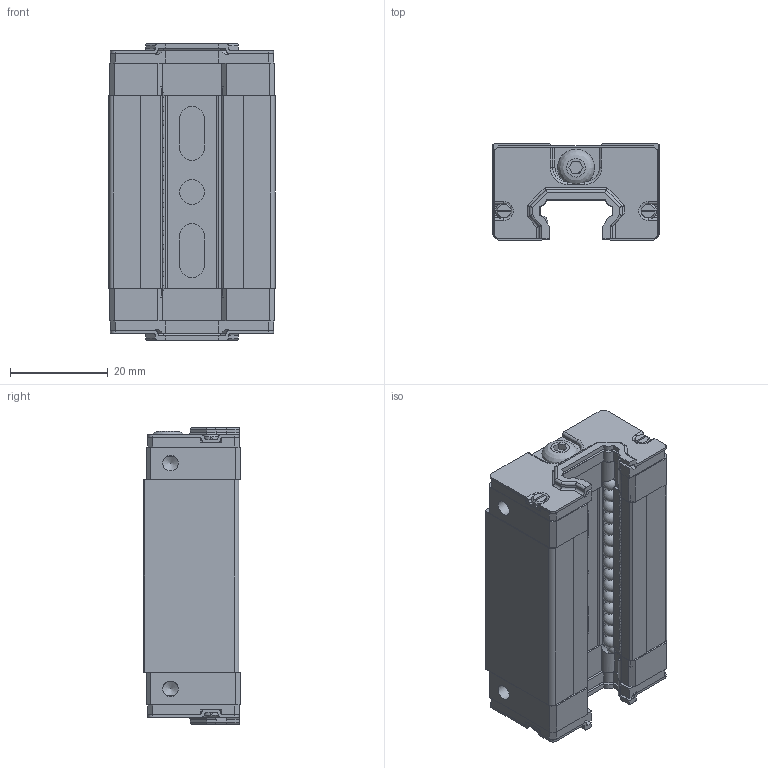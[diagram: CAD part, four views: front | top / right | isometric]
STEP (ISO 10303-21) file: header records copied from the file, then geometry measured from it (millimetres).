
FILE_DESCRIPTION(/* description */ (''),/* implementation_level */ '2;1');
FILE_NAME(/* name */ 'C:\Users\daviddillkoetter\ownCloud\Kamp und Kötter\Artikel\_CAD-Dateien\ZCF-Profilfuehrung\CE\Export\KPFW-15U-BL.stp',/* time_stamp */ '2021-03-22T15:33:22+01:00',/* author */ ('daviddillkoetter'),/* organization */ (''),/* preprocessor_version */ 'ST-DEVELOPER v18.1',/* originating_system */ 'Autodesk Inventor 2021',/* authorisation */ '');
FILE_SCHEMA (('AUTOMOTIVE_DESIGN { 1 0 10303 214 3 1 1 }'));
Length unit declared in the file: millimetre
Products named in the file (15): CE15H-CA; CE15_HGrundkoeprerWagen; CE15_Kunststoffkugelsicherung; CE15_KunstoffKugelfuehrungoben; CE15_Teflonumlenker; CE15_Kunststoffkappe; CE15_Schmutzabstreifer; Screw GB 823 M2,5 x 10; DIN 920 - M2,5 x 10; ISO 7380-1 - M4 x 6; CE15-Kugelkette; CE15-Kugelkette_MIR; CE15-Kugelkette_MIR1; CE15-Kugelkette_MIR_MIR; CE15_Metallabdeckung
Assembly tree (25 placements, depth 2):
  CE15H-CA
    CE15_HGrundkoeprerWagen
    CE15_Kunststoffkugelsicherung  x2
    CE15_KunstoffKugelfuehrungoben
    CE15_Teflonumlenker  x2
    CE15_Kunststoffkappe  x2
    CE15_Schmutzabstreifer  x2
    DIN 920 - M2,5 x 10  x4
    Screw GB 823 M2,5 x 10  x4
    ISO 7380-1 - M4 x 6
    CE15-Kugelkette
    CE15-Kugelkette_MIR
    CE15-Kugelkette_MIR1
    CE15-Kugelkette_MIR_MIR
    CE15_Metallabdeckung  x2
Bounding box: 34 x 19.8 x 60.79 mm (x, y, z)
Volume: 27935.7 mm3; surface area: 27974.5 mm2
Topology: 157 solids, 157 shells, 1533 faces, 4132 edges, 2684 vertices
Faces by surface type: plane 832, cylinder 387, sphere 140, cone 106, torus 67, bspline 1
Full cylindrical faces by diameter (mm): 0.845 x4, 2.013 x12, 2.208 x4, 2.5 x12, 2.8 x16, 2.9 x8, 3.2 x4, 3.242 x6, 3.5 x4, 4 x1, 4.3 x16, 4.5 x6, 5 x1, 5.8 x2, 7.6 x1
Entity records: 27723 total; most frequent: CARTESIAN_POINT 5163, DIRECTION 4594, ORIENTED_EDGE 4248, EDGE_CURVE 2124, AXIS2_PLACEMENT_3D 1620, VERTEX_POINT 1562, LINE 1354, VECTOR 1354
